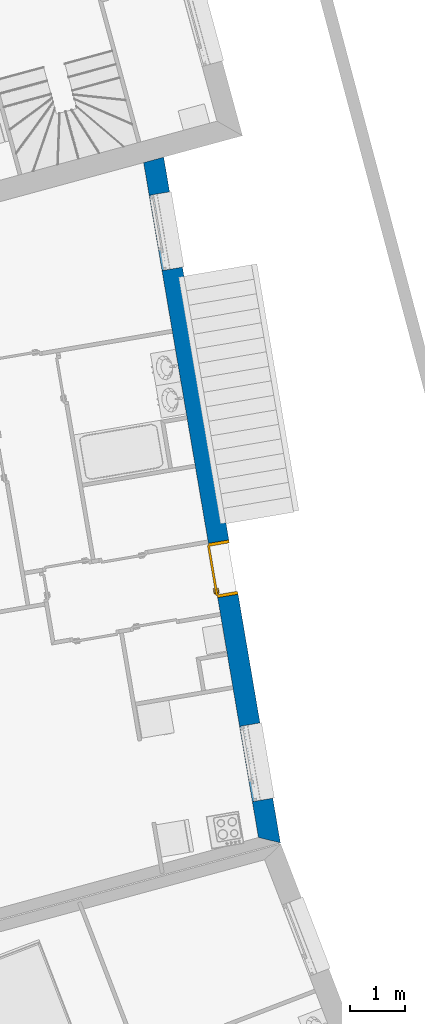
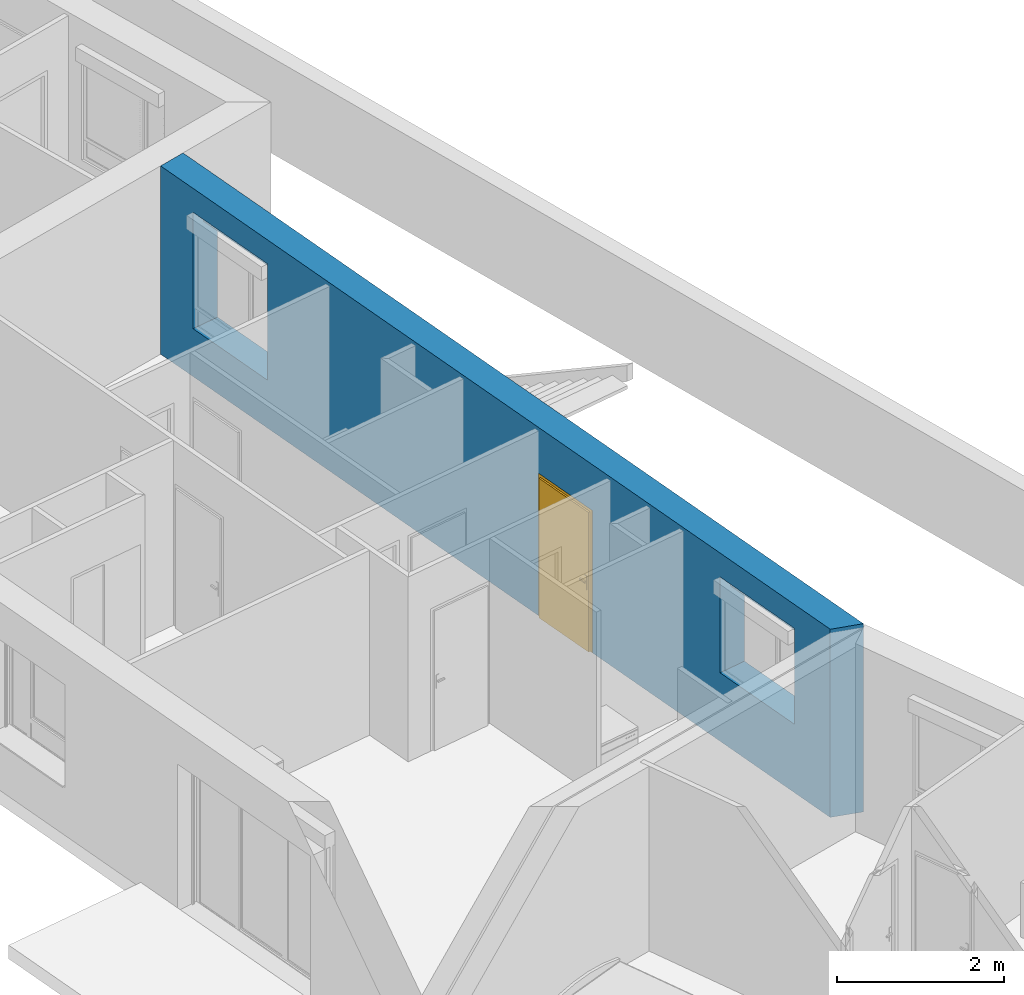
# One storey, part 89 of 195: 1 door, 1 wall, 3 openings.
"""IFC2X3 building model written with IfcOpenShell, lengths in metres."""

from ifc_helpers import new_model, entity, si_unit, converted_unit, derived_unit, money_unit, direction, frame, origin_with_axes, origin_2d_with_axis, place, context, subcontext, project, spatial, polyline, rectangle, outline, extrude, faceted_brep, source, transform, mapped, material, layer, layer_set, layer_usage, type_object, element, fill, save


model = new_model("IFC2X3")

# Units and contexts
model_context = context("Model", 3, precision=1e-05, world=origin_with_axes(), true_north=direction((0.0, 1.0)))
body_context = subcontext(model_context, "Body", "Model", "MODEL_VIEW")
ifc_project = project(units=[si_unit("LENGTHUNIT", "METRE"), si_unit("AREAUNIT", "SQUARE_METRE"), si_unit("VOLUMEUNIT", "CUBIC_METRE"), converted_unit("PLANEANGLEUNIT", "DEGREE", entity("IfcPlaneAngleMeasure", 0.0174532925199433), si_unit("PLANEANGLEUNIT", "RADIAN"), dimensions=[0, 0, 0, 0, 0, 0, 0]), money_unit("CHF"), converted_unit("TIMEUNIT", "Year", entity("IfcTimeMeasure", 31557600.0), si_unit("TIMEUNIT", "SECOND"), dimensions=[0, 0, 1, 0, 0, 0, 0]), si_unit("MASSUNIT", "GRAM", prefix="KILO"), si_unit("THERMODYNAMICTEMPERATUREUNIT", "DEGREE_CELSIUS"), si_unit("LUMINOUSINTENSITYUNIT", "LUMEN"), si_unit("ENERGYUNIT", "JOULE", prefix="MEGA"), derived_unit("THERMALCONDUCTANCEUNIT", [(si_unit("POWERUNIT", "WATT"), 1), (si_unit("LENGTHUNIT", "METRE"), -1), (si_unit("THERMODYNAMICTEMPERATUREUNIT", "KELVIN"), -1)]), derived_unit("SPECIFICHEATCAPACITYUNIT", [(si_unit("ENERGYUNIT", "JOULE"), 1), (si_unit("MASSUNIT", "GRAM", prefix="KILO"), -1), (si_unit("THERMODYNAMICTEMPERATUREUNIT", "KELVIN"), -1)]), derived_unit("MASSDENSITYUNIT", [(si_unit("MASSUNIT", "GRAM", prefix="KILO"), 1), (si_unit("VOLUMEUNIT", "CUBIC_METRE"), -1)])], contexts=[model_context])

# Site, building, storey
site_placement = place(None, origin_with_axes())
site = spatial("IfcSite", under=ifc_project, at=site_placement, Name="Site", CompositionType="ELEMENT")
building_placement = place(site_placement, origin_with_axes())
building = spatial("IfcBuilding", under=site, at=building_placement, Name="Bâtiment", CompositionType="ELEMENT")
storey_placement = place(building_placement, origin_with_axes())
storey = spatial("IfcBuildingStorey", under=building, at=storey_placement, Name="rdc", CompositionType="ELEMENT", Elevation=0.0)

# Wall, openings, door
ifc_material_1 = material(Name="Parpaing 312445824")
ifc_layer_1 = layer(ifc_material_1, 0.22, ventilated="UNKNOWN")
ifc_material_2 = material(Name="Isolant styromousse 301821074")
ifc_layer_2 = layer(ifc_material_2, 0.16, ventilated="UNKNOWN")
ifc_layer_set = layer_set([ifc_layer_1, ifc_layer_2], Name="isol int 22+16 0836643197")
ifc_layer_usage = layer_usage(ifc_layer_set, "AXIS2", "NEGATIVE", 0.0)
wall_type = type_object("IfcWallType", Name="isol int 22+16 0836643197 380", PredefinedType="NOTDEFINED")
wall_placement = place(storey_placement, frame((9587.267838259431, -1021.018009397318, 57.7), z_axis=(0.0, 0.0, 1.0), x_axis=(0.1677527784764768, -0.9858290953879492, 0.0)))
wall = element("IfcWallStandardCase", 1, at=wall_placement, inside=storey, type_object=wall_type, material=ifc_layer_usage, Name="Mur-113", context=body_context, shape_type="SweptSolid", body=[
    extrude(outline(polyline([(0.03709306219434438, -0.3800000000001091), (12.59549387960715, -0.3800000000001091), (12.75935139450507, 0.0), (0.0, 0.0), (0.03709306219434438, -0.3800000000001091)])), origin_with_axes(), (0.0, 0.0, 1.0), 2.75),
])
opening_1_placement = place(wall_placement, frame((1.346512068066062, 0.0, 0.7000000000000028), z_axis=(0.0, 0.0, 1.0), x_axis=(1.0, 0.0, 0.0)))
element("IfcOpeningElement", 2, at=opening_1_placement, cuts=wall, Name="Fen-045", context=body_context, shape_type="Brep", body=[
    faceted_brep([(-0.6999999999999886, -0.2200000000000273, 1.5), (0.6999999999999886, -0.2200000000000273, 1.5), (0.700000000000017, 2.111085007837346, 1.5), (-0.6999999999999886, 2.111085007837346, 1.5), (-0.6999999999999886, -0.2200000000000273, 1.700000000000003), (0.6999999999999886, -0.2200000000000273, 1.700000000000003), (0.700000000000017, -0.2999999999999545, 1.5), (0.700000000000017, -0.2999999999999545, 0.0), (0.700000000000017, 2.111085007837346, 0.0), (-0.6999999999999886, 2.111085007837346, 0.0), (-0.6999999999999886, -0.2999999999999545, 1.5), (-0.6999999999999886, -0.2999999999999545, 0.0), (-0.6999999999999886, -0.4799999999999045, 1.5), (-0.6999999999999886, -0.4799999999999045, 1.700000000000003), (0.700000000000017, -0.4800000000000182, 1.700000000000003), (0.700000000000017, -0.4800000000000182, 1.5), (0.6999999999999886, -2.491085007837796, 1.5), (0.6999999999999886, -2.491085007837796, 0.0), (-0.6999999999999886, -2.491085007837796, 0.0), (-0.6999999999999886, -2.491085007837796, 1.5)], [[[0, 1, 2, 3]], [[1, 0, 4, 5]], [[1, 6, 7, 8, 2]], [[2, 8, 9, 3]], [[10, 0, 3, 9, 11]], [[0, 10, 12, 13, 4]], [[14, 5, 4, 13]], [[6, 1, 5, 14, 15]], [[6, 15, 16, 17, 7]], [[7, 11, 9, 8]], [[12, 10, 11, 18, 19]], [[12, 15, 14, 13]], [[15, 12, 19, 16]], [[19, 18, 17, 16]], [[11, 7, 17, 18]]]),
])
opening_2_placement = place(wall_placement, frame((7.627277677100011, 0.0, 0.0), z_axis=(0.0, 0.0, 1.0), x_axis=(1.0, 0.0, 0.0)))
opening_2 = element("IfcOpeningElement", 3, at=opening_2_placement, cuts=wall, Name="Por-290", context=body_context, shape_type="SweptSolid", body=[
    extrude(rectangle(XDim=1.01000001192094, YDim=2.079999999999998, at=origin_2d_with_axis()), frame((-5.960487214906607e-09, 0.3799999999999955, 1.039999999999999), z_axis=(0.0, -1.0, 0.0), x_axis=(-1.0, 0.0, 0.0)), (0.0, 0.0, 1.0), 0.76),
])
opening_3_placement = place(wall_placement, frame((11.22808404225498, 0.0, 1.0), z_axis=(0.0, 0.0, 1.0), x_axis=(1.0, 0.0, 0.0)))
element("IfcOpeningElement", 4, at=opening_3_placement, cuts=wall, Name="Fen-045", context=body_context, shape_type="Brep", body=[
    faceted_brep([(-0.700000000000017, -0.2200000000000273, 1.200000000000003), (0.6999999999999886, -0.2200000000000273, 1.200000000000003), (0.6999999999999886, 2.11108500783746, 1.200000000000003), (-0.700000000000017, 2.11108500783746, 1.200000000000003), (-0.700000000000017, -0.2200000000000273, 1.399999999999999), (0.6999999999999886, -0.2200000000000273, 1.399999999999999), (0.700000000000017, -0.2999999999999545, 1.200000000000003), (0.700000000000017, -0.2999999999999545, 0.0), (0.6999999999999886, 2.11108500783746, 0.0), (-0.700000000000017, 2.11108500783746, 0.0), (-0.700000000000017, -0.2999999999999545, 1.200000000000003), (-0.700000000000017, -0.2999999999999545, 0.0), (-0.700000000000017, -0.4800000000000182, 1.200000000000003), (-0.700000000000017, -0.4800000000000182, 1.399999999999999), (0.700000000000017, -0.4800000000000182, 1.399999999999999), (0.700000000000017, -0.4800000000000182, 1.200000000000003), (0.6999999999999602, -2.491085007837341, 1.200000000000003), (0.6999999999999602, -2.491085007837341, 0.0), (-0.700000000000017, -2.491085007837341, 0.0), (-0.700000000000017, -2.491085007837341, 1.200000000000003)], [[[0, 1, 2, 3]], [[1, 0, 4, 5]], [[1, 6, 7, 8, 2]], [[2, 8, 9, 3]], [[10, 0, 3, 9, 11]], [[0, 10, 12, 13, 4]], [[14, 5, 4, 13]], [[6, 1, 5, 14, 15]], [[6, 15, 16, 17, 7]], [[7, 11, 9, 8]], [[12, 10, 11, 18, 19]], [[12, 15, 14, 13]], [[15, 12, 19, 16]], [[19, 18, 17, 16]], [[11, 7, 17, 18]]]),
])
door_style = type_object("IfcDoorStyle", Name="Porte_1v", ConstructionType="NOTDEFINED", OperationType="NOTDEFINED", ParameterTakesPrecedence=False, Sizeable=False)
shared_shape = source(origin_with_axes(), body_context, "Body", "Brep", [
    faceted_brep([(0.5049999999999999, 0.0, 0.0), (0.465, 0.0, 0.0), (0.4649999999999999, 0.0, 2.04), (-0.4649999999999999, 0.0, 2.04), (-0.465, 0.0, 0.0), (-0.5049999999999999, 0.0, 0.0), (-0.5049999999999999, 0.0, 2.08), (0.5049999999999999, 0.0, 2.08), (0.5049999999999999, -0.38, 0.0), (0.45, -0.3799999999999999, 0.0), (0.45, -0.01500000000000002, 0.0), (0.465, -0.01500000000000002, 0.0), (0.4649999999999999, -0.01500000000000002, 2.04), (-0.4649999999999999, -0.01499999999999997, 2.04), (-0.465, -0.01499999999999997, 0.0), (-0.45, -0.01499999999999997, 0.0), (-0.45, -0.3799999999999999, 0.0), (-0.5049999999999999, -0.3799999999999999, 0.0), (-0.5049999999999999, -0.3799999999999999, 2.08), (0.5049999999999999, -0.38, 2.08), (-0.45, -0.3799999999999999, 2.025), (0.45, -0.3799999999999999, 2.025), (0.45, -0.01500000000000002, 2.025), (-0.45, -0.01499999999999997, 2.025)], [[[0, 1, 2, 3, 4, 5, 6, 7]], [[0, 8, 9, 10, 11, 1]], [[1, 11, 12, 2]], [[2, 12, 13, 3]], [[3, 13, 14, 4]], [[5, 4, 14, 15, 16, 17]], [[18, 6, 5, 17]], [[19, 7, 6, 18]], [[8, 0, 7, 19]], [[9, 8, 19, 18, 17, 16, 20, 21]], [[10, 9, 21, 22]], [[11, 10, 22, 23, 15, 14, 13, 12]], [[23, 20, 16, 15]], [[22, 21, 20, 23]]]),
    faceted_brep([(-0.4, -0.01499999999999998, 0.9), (-0.4399999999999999, -0.01499999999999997, 0.9), (-0.4399999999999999, -0.01499999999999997, 1.1), (-0.4, -0.01499999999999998, 1.1), (-0.4, -0.02499999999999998, 0.9), (-0.4399999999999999, -0.02499999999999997, 0.9), (-0.4399999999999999, -0.02499999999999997, 1.1), (-0.4, -0.02499999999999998, 1.1)], [[[0, 1, 2, 3]], [[1, 0, 4, 5]], [[2, 1, 5, 6]], [[3, 2, 6, 7]], [[0, 3, 7, 4]], [[5, 4, 7, 6]]]),
    faceted_brep([(-0.3299999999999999, -0.02499999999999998, 1.0), (-0.4299999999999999, -0.02499999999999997, 1.0), (-0.4299999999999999, -0.02499999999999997, 1.02), (-0.3299999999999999, -0.02499999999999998, 1.02), (-0.3299999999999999, -0.04499999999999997, 1.0), (-0.4299999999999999, -0.04499999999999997, 1.0), (-0.4299999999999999, -0.04499999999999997, 1.02), (-0.3299999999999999, -0.04499999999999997, 1.02)], [[[0, 1, 2, 3]], [[1, 0, 4, 5]], [[2, 1, 5, 6]], [[3, 2, 6, 7]], [[0, 3, 7, 4]], [[5, 4, 7, 6]]]),
    faceted_brep([(-0.4, 0.03500000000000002, 0.9), (-0.4399999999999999, 0.03500000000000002, 0.9), (-0.4399999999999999, 0.03500000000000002, 1.1), (-0.4, 0.03500000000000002, 1.1), (-0.4, 0.02500000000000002, 0.9), (-0.4399999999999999, 0.02500000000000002, 0.9), (-0.4399999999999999, 0.02500000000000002, 1.1), (-0.4, 0.02500000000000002, 1.1)], [[[0, 1, 2, 3]], [[1, 0, 4, 5]], [[2, 1, 5, 6]], [[3, 2, 6, 7]], [[0, 3, 7, 4]], [[5, 4, 7, 6]]]),
    faceted_brep([(-0.3299999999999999, 0.05500000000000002, 1.0), (-0.4299999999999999, 0.05500000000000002, 1.0), (-0.4299999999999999, 0.05500000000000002, 1.02), (-0.3299999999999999, 0.05500000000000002, 1.02), (-0.3299999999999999, 0.03500000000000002, 1.0), (-0.4299999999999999, 0.03500000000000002, 1.0), (-0.4299999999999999, 0.03500000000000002, 1.02), (-0.3299999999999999, 0.03500000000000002, 1.02)], [[[0, 1, 2, 3]], [[1, 0, 4, 5]], [[2, 1, 5, 6]], [[3, 2, 6, 7]], [[0, 3, 7, 4]], [[5, 4, 7, 6]]]),
    faceted_brep([(-0.465, 0.02500000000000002, 0.0), (0.465, 0.02499999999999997, 0.0), (0.465, -0.01500000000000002, 0.0), (-0.465, -0.01499999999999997, 0.0), (-0.465, 0.02500000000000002, 2.04), (0.465, 0.02499999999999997, 2.04), (0.465, -0.01500000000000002, 2.04), (-0.465, -0.01499999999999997, 2.04)], [[[0, 1, 2, 3]], [[0, 4, 5, 1]], [[1, 5, 6, 2]], [[3, 2, 6, 7]], [[4, 0, 3, 7]], [[5, 4, 7, 6]]]),
])
door_placement = place(opening_2_placement, frame((0.4649999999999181, 0.0, 0.0), z_axis=(0.0, 0.0, 1.0), x_axis=(-1.0, 0.0, 0.0)))
door = element("IfcDoor", 5, at=door_placement, inside=storey, type_object=door_style, Name="Por-290", OverallHeight=2.04, OverallWidth=0.93, context=body_context, shape_type="MappedRepresentation", body=[
    mapped(shared_shape, transform((0.4650000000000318, 0.3799999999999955, 0.0))),
])
fill(opening_2, door)

save(model, "model.ifc")
